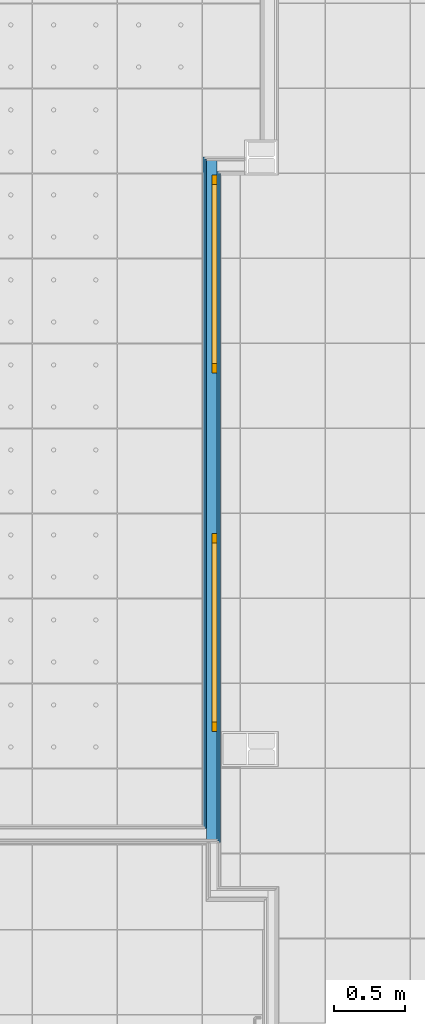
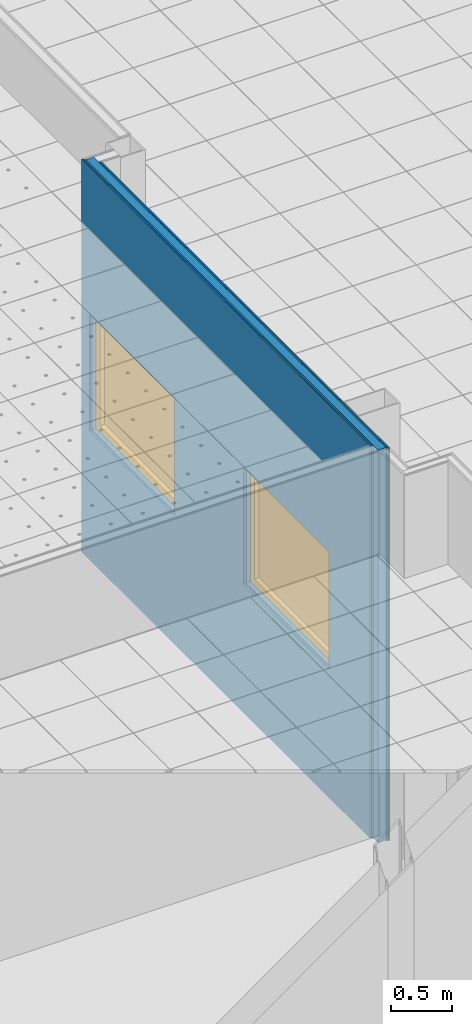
# One storey, part 45 of 321: 5 building element parts, 2 windows, 2 openings, 1 element without a shape of its own.
"""IFC2X3 building model written with IfcOpenShell, lengths in millimetres."""

from ifc_helpers import new_model, entity, si_unit, converted_unit, derived_unit, money_unit, direction, frame, origin_with_axes, place, context, subcontext, project, spatial, open_shell, faceted_brep, surface_model, source, transform, mapped, material, type_object, type_shapes, element, fill, aggregate, save


model = new_model("IFC2X3")

# Units and contexts
model_context = context("Model", 3, precision=0.01, world=origin_with_axes(), true_north=direction((0.0, 1.0)))
plan_context = context("Plan", 3, precision=0.01, world=origin_with_axes(), true_north=direction((0.0, 1.0)))
body_context = subcontext(model_context, "Body", "Model", "MODEL_VIEW")
ifc_project = project(units=[si_unit("LENGTHUNIT", "METRE", prefix="MILLI"), si_unit("AREAUNIT", "SQUARE_METRE"), si_unit("VOLUMEUNIT", "CUBIC_METRE"), converted_unit("PLANEANGLEUNIT", "DEGREE", entity("IfcPlaneAngleMeasure", 0.0174532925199), si_unit("PLANEANGLEUNIT", "RADIAN"), dimensions=[0, 0, 0, 0, 0, 0, 0]), money_unit("EUR"), converted_unit("TIMEUNIT", "Year", entity("IfcTimeMeasure", 31556926.0), si_unit("TIMEUNIT", "SECOND"), dimensions=[0, 0, 1, 0, 0, 0, 0]), si_unit("MASSUNIT", "GRAM", prefix="KILO"), si_unit("THERMODYNAMICTEMPERATUREUNIT", "DEGREE_CELSIUS"), si_unit("LUMINOUSINTENSITYUNIT", "LUMEN"), si_unit("ENERGYUNIT", "JOULE", prefix="MEGA"), derived_unit("THERMALCONDUCTANCEUNIT", [(si_unit("POWERUNIT", "WATT"), 1), (si_unit("LENGTHUNIT", "METRE"), -1), (si_unit("THERMODYNAMICTEMPERATUREUNIT", "KELVIN"), -1)]), derived_unit("SPECIFICHEATCAPACITYUNIT", [(si_unit("ENERGYUNIT", "JOULE"), 1), (si_unit("MASSUNIT", "GRAM", prefix="KILO"), -1), (si_unit("THERMODYNAMICTEMPERATUREUNIT", "KELVIN"), -1)]), derived_unit("MASSDENSITYUNIT", [(si_unit("MASSUNIT", "GRAM", prefix="KILO"), 1), (si_unit("VOLUMEUNIT", "CUBIC_METRE"), -1)])], contexts=[model_context, plan_context])

# Site, building, storey
site_placement = place(None, origin_with_axes())
site = spatial("IfcSite", under=ifc_project, at=site_placement, Name="Fortuinstraat Woensdrecht", CompositionType="ELEMENT")
building_placement = place(site_placement, origin_with_axes())
building = spatial("IfcBuilding", under=site, at=building_placement, Name="IKC Fortuna", CompositionType="ELEMENT")
storey_placement = place(building_placement, frame((0.0, 0.0, 4000.0), z_axis=(0.0, 0.0, 1.0), x_axis=(1.0, 0.0, 0.0)))
storey = spatial("IfcBuildingStorey", under=building, at=storey_placement, Name="01 eerste verdieping", CompositionType="ELEMENT", Elevation=4000.0)

# Window
window_style = type_object("IfcWindowStyle", Name="R1 25", ConstructionType="NOTDEFINED", OperationType="SINGLE_PANEL", ParameterTakesPrecedence=False, Sizeable=False)
shared_shape = source(origin_with_axes(), body_context, "Body", "SurfaceModel", [
    faceted_brep([(-633.0, -62.0, 1100.0), (-633.0, 0.0, 1100.0), (-700.0, 0.0, 1100.0), (-700.0, -62.0, 1100.0), (-633.0, -62.0, 67.0), (-633.0, 0.0, 67.0), (-700.0, 0.0, 67.0), (-700.0, -62.0, 67.0)], [[[0, 1, 2, 3]], [[4, 5, 1, 0]], [[1, 5, 6, 2]], [[3, 2, 6, 7]], [[0, 3, 7, 4]], [[7, 6, 5, 4]]]),
    faceted_brep([(633.0, -62.0, 67.0), (633.0, 0.0, 67.0), (700.0, 0.0, 67.0), (700.0, -62.0, 67.0), (633.0, -62.0, 1100.0), (633.0, 0.0, 1100.0), (700.0, 0.0, 1100.0), (700.0, -62.0, 1100.0)], [[[0, 1, 2, 3]], [[4, 5, 1, 0]], [[1, 5, 6, 2]], [[3, 2, 6, 7]], [[0, 3, 7, 4]], [[7, 6, 5, 4]]]),
    faceted_brep([(-633.0, -62.0, 67.0), (-633.0, 0.0, 67.0), (-700.0, 0.0, 67.0), (-700.0, -62.0, 67.0), (633.0, -62.0, 67.0), (633.0, 0.0, 67.0), (700.0, 0.0, 67.0), (700.0, 0.0, 0.0), (-700.0, 0.0, 0.0), (-700.0, -62.0, 0.0), (700.0, -62.0, 0.0), (700.0, -62.0, 67.0)], [[[0, 1, 2, 3]], [[4, 5, 1, 0]], [[1, 5, 6, 7, 8, 2]], [[3, 2, 8, 9]], [[0, 3, 9, 10, 11, 4]], [[11, 6, 5, 4]], [[10, 7, 6, 11]], [[9, 8, 7, 10]]]),
    faceted_brep([(633.0, -62.0, 1100.0), (633.0, 0.0, 1100.0), (700.0, 0.0, 1100.0), (700.0, -62.0, 1100.0), (-633.0, -62.0, 1100.0), (-633.0, 0.0, 1100.0), (-700.0, 0.0, 1100.0), (-700.0, 0.0, 1167.0), (700.0, 0.0, 1167.0), (700.0, -62.0, 1167.0), (-700.0, -62.0, 1167.0), (-700.0, -62.0, 1100.0)], [[[0, 1, 2, 3]], [[4, 5, 1, 0]], [[1, 5, 6, 7, 8, 2]], [[3, 2, 8, 9]], [[0, 3, 9, 10, 11, 4]], [[11, 6, 5, 4]], [[10, 7, 6, 11]], [[9, 8, 7, 10]]]),
    surface_model("IfcShellBasedSurfaceModel", [(-633.0, -64.0, 67.0), (633.0, -64.0, 67.0), (633.0, -64.0, 1100.0), (-633.0, -64.0, 1100.0)], [open_shell([[[0, 1, 2, 3]]])]),
    surface_model("IfcShellBasedSurfaceModel", [(-633.0, -44.0, 67.0), (-633.0, -44.0, 1100.0), (633.0, -44.0, 1100.0), (633.0, -44.0, 67.0)], [open_shell([[[0, 1, 2, 3]]])]),
])
type_shapes(window_style, [shared_shape])
wall_placement = place(storey_placement, frame((20219.9349765, 19322.2790326, -90.0), z_axis=(0.0, 0.0, 1.0), x_axis=(0.0, 1.0, 0.0)))
opening_1_placement = place(wall_placement, frame((1422.51759568, 0.0, 1290.0), z_axis=(0.0, 0.0, 1.0), x_axis=(1.0, 0.0, 0.0)))
window_1_placement = place(opening_1_placement, frame((-700.0, 0.0, 0.0), z_axis=(0.0, 0.0, 1.0), x_axis=(1.0, 0.0, 0.0)))
window_1 = element("IfcWindow", 1, at=window_1_placement, inside=storey, type_object=window_style, Name="32_Raam_h.05", ObjectType="WINDOW", OverallHeight=1167.0, OverallWidth=1400.0, context=body_context, shape_type="MappedRepresentation", body=[
    mapped(shared_shape, transform((700.0, -0.499999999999, 0.0))),
])

opening_2_placement = place(wall_placement, frame((3952.51759568, 0.0, 1290.0), z_axis=(0.0, 0.0, 1.0), x_axis=(1.0, 0.0, 0.0)))
window_2_placement = place(opening_2_placement, frame((-700.0, 0.0, 0.0), z_axis=(0.0, 0.0, 1.0), x_axis=(1.0, 0.0, 0.0)))
window_2 = element("IfcWindow", 2, at=window_2_placement, inside=storey, type_object=window_style, Name="32_Raam_h.05", ObjectType="WINDOW", OverallHeight=1167.0, OverallWidth=1400.0, context=body_context, shape_type="MappedRepresentation", body=[
    mapped(shared_shape, transform((700.0, -0.499999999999, 0.0))),
])

# Wall, opening
wall_type = type_object("IfcWallType", Name="MS125 2.75.2A 125", PredefinedType="NOTDEFINED")
wall = element("IfcWall", 3, at=wall_placement, inside=storey, type_object=wall_type, Name="22_Wand_Binnenwand")
opening_1 = element("IfcOpeningElement", 4, at=opening_1_placement, cuts=wall, Name="32_Raam_h.05", context=body_context, shape_type="Brep", body=[
    faceted_brep([(700.0, 125.0, 0.0), (700.0, 125.0, 1167.0), (700.0, -250.0, 1167.0), (700.0, -250.0, 0.0), (-700.0, 125.0, 0.0), (-700.0, 125.0, 1167.0), (-700.0, -250.0, 1167.0), (-700.0, -250.0, 0.0)], [[[0, 1, 2, 3]], [[0, 4, 5, 1]], [[1, 5, 6, 2]], [[3, 2, 6, 7]], [[4, 0, 3, 7]], [[5, 4, 7, 6]]]),
])

fill(opening_1, window_1)

# Opening
opening_2 = element("IfcOpeningElement", 5, at=opening_2_placement, cuts=wall, Name="32_Raam_h.05", context=body_context, shape_type="Brep", body=[
    faceted_brep([(700.0, 125.0, 0.0), (700.0, 125.0, 1167.0), (700.0, -250.0, 1167.0), (700.0, -250.0, 0.0), (-700.0, 125.0, 0.0), (-700.0, 125.0, 1167.0), (-700.0, -250.0, 1167.0), (-700.0, -250.0, 0.0)], [[[0, 1, 2, 3]], [[0, 4, 5, 1]], [[1, 5, 6, 2]], [[3, 2, 6, 7]], [[4, 0, 3, 7]], [[5, 4, 7, 6]]]),
])

fill(opening_2, window_2)

# Building element part
ifc_material_1 = material(Name="Gipsplaat")
building_element_part_1_placement = place(wall_placement, origin_with_axes())
building_element_part_1 = element("IfcBuildingElementPart", 6, at=building_element_part_1_placement, material=ifc_material_1, Name="Gipsplaat", context=body_context, shape_type="Brep", body=[
    faceted_brep([(50.0, 62.5, 3930.0), (4777.51759568, 62.5, 3930.0), (4777.51759568, 62.5, 0.0), (50.0, 62.5, 0.0), (2122.51759568, 62.5, 1290.0), (2122.51759568, 62.5, 2457.0), (722.517595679, 62.5, 2457.0), (722.517595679, 62.5, 1290.0), (3252.51759568, 62.5, 1290.0), (4652.51759568, 62.5, 1290.0), (4652.51759568, 62.5, 2457.0), (3252.51759568, 62.5, 2457.0), (50.0, 50.0, 3930.0), (4777.51759568, 50.0, 3930.0), (4777.51759568, 50.0, 0.0), (50.0, 50.0, 0.0), (2122.51759568, 50.0, 2457.0), (2122.51759568, 50.0, 1290.0), (722.517595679, 50.0, 2457.0), (722.517595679, 50.0, 1290.0), (3252.51759568, 50.0, 1290.0), (4652.51759568, 50.0, 1290.0), (4652.51759568, 50.0, 2457.0), (3252.51759568, 50.0, 2457.0)], [[[0, 1, 2, 3], [4, 5, 6, 7], [8, 9, 10, 11]], [[12, 13, 1, 0]], [[2, 1, 13, 14]], [[3, 2, 14, 15]], [[3, 15, 12, 0]], [[16, 5, 4, 17]], [[18, 6, 5, 16]], [[19, 7, 6, 18]], [[17, 4, 7, 19]], [[20, 21, 9, 8]], [[21, 22, 10, 9]], [[22, 23, 11, 10]], [[23, 20, 8, 11]], [[15, 14, 13, 12], [18, 16, 17, 19], [20, 23, 22, 21]]]),
])

building_element_part_2_placement = place(wall_placement, origin_with_axes())
building_element_part_2 = element("IfcBuildingElementPart", 7, at=building_element_part_2_placement, material=ifc_material_1, Name="Gipsplaat", context=body_context, shape_type="Brep", body=[
    faceted_brep([(37.5, 50.0, 3930.0), (4765.01759568, 50.0, 3930.0), (4765.01759568, 50.0, 0.0), (37.5, 50.0, 0.0), (2122.51759568, 50.0, 1290.0), (2122.51759568, 50.0, 2457.0), (722.517595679, 50.0, 2457.0), (722.517595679, 50.0, 1290.0), (3252.51759568, 50.0, 1290.0), (4652.51759568, 50.0, 1290.0), (4652.51759568, 50.0, 2457.0), (3252.51759568, 50.0, 2457.0), (37.5, 37.5, 3930.0), (4765.01759568, 37.5, 3930.0), (4765.01759568, 37.5, 0.0), (37.5, 37.5, 0.0), (2122.51759568, 37.5, 2457.0), (2122.51759568, 37.5, 1290.0), (722.517595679, 37.5, 2457.0), (722.517595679, 37.5, 1290.0), (3252.51759568, 37.5, 1290.0), (4652.51759568, 37.5, 1290.0), (4652.51759568, 37.5, 2457.0), (3252.51759568, 37.5, 2457.0)], [[[0, 1, 2, 3], [4, 5, 6, 7], [8, 9, 10, 11]], [[12, 13, 1, 0]], [[2, 1, 13, 14]], [[3, 2, 14, 15]], [[3, 15, 12, 0]], [[16, 5, 4, 17]], [[18, 6, 5, 16]], [[19, 7, 6, 18]], [[17, 4, 7, 19]], [[20, 21, 9, 8]], [[21, 22, 10, 9]], [[22, 23, 11, 10]], [[23, 20, 8, 11]], [[15, 14, 13, 12], [18, 16, 17, 19], [20, 23, 22, 21]]]),
])

ifc_material_2 = material(Name="Isolatie - Steenwol LSW")
building_element_part_3_placement = place(wall_placement, origin_with_axes())
building_element_part_3 = element("IfcBuildingElementPart", 8, at=building_element_part_3_placement, material=ifc_material_2, Name="Isolatie - Steenwol LSW", context=body_context, shape_type="Brep", body=[
    faceted_brep([(-37.5, 37.5, 3930.0), (4752.51759568, 37.5, 3930.0), (4752.51759568, 37.5, 0.0), (-37.5, 37.5, 0.0), (2122.51759568, 37.5, 1290.0), (2122.51759568, 37.5, 2457.0), (722.517595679, 37.5, 2457.0), (722.517595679, 37.5, 1290.0), (3252.51759568, 37.5, 1290.0), (4652.51759568, 37.5, 1290.0), (4652.51759568, 37.5, 2457.0), (3252.51759568, 37.5, 2457.0), (-37.5, -37.5, 3930.0), (4752.51759568, -37.5, 3930.0), (4752.51759568, -37.5, 0.0), (-37.5, -37.5, 0.0), (2122.51759568, -37.5, 2457.0), (2122.51759568, -37.5, 1290.0), (722.517595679, -37.5, 2457.0), (722.517595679, -37.5, 1290.0), (3252.51759568, -37.5, 1290.0), (4652.51759568, -37.5, 1290.0), (4652.51759568, -37.5, 2457.0), (3252.51759568, -37.5, 2457.0)], [[[0, 1, 2, 3], [4, 5, 6, 7], [8, 9, 10, 11]], [[12, 13, 1, 0]], [[2, 1, 13, 14]], [[3, 2, 14, 15]], [[3, 15, 12, 0]], [[16, 5, 4, 17]], [[18, 6, 5, 16]], [[19, 7, 6, 18]], [[17, 4, 7, 19]], [[20, 21, 9, 8]], [[21, 22, 10, 9]], [[22, 23, 11, 10]], [[23, 20, 8, 11]], [[15, 14, 13, 12], [18, 16, 17, 19], [20, 23, 22, 21]]]),
])

building_element_part_4_placement = place(wall_placement, origin_with_axes())
building_element_part_4 = element("IfcBuildingElementPart", 9, at=building_element_part_4_placement, material=ifc_material_1, Name="Gipsplaat", context=body_context, shape_type="Brep", body=[
    faceted_brep([(-50.0, -37.5, 3930.0), (4677.51759568, -37.5, 3930.0), (4677.51759568, -37.5, 0.0), (-50.0, -37.5, 0.0), (2122.51759568, -37.5, 1290.0), (2122.51759568, -37.5, 2457.0), (722.517595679, -37.5, 2457.0), (722.517595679, -37.5, 1290.0), (3252.51759568, -37.5, 1290.0), (4652.51759568, -37.5, 1290.0), (4652.51759568, -37.5, 2457.0), (3252.51759568, -37.5, 2457.0), (-50.0, -50.0, 3930.0), (4677.51759568, -50.0, 3930.0), (4677.51759568, -50.0, 0.0), (-50.0, -50.0, 0.0), (2122.51759568, -50.0, 2457.0), (2122.51759568, -50.0, 1290.0), (722.517595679, -50.0, 2457.0), (722.517595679, -50.0, 1290.0), (3252.51759568, -50.0, 1290.0), (4652.51759568, -50.0, 1290.0), (4652.51759568, -50.0, 2457.0), (3252.51759568, -50.0, 2457.0)], [[[0, 1, 2, 3], [4, 5, 6, 7], [8, 9, 10, 11]], [[12, 13, 1, 0]], [[2, 1, 13, 14]], [[3, 2, 14, 15]], [[3, 15, 12, 0]], [[16, 5, 4, 17]], [[18, 6, 5, 16]], [[19, 7, 6, 18]], [[17, 4, 7, 19]], [[20, 21, 9, 8]], [[21, 22, 10, 9]], [[22, 23, 11, 10]], [[23, 20, 8, 11]], [[15, 14, 13, 12], [18, 16, 17, 19], [20, 23, 22, 21]]]),
])

building_element_part_5_placement = place(wall_placement, origin_with_axes())
building_element_part_5 = element("IfcBuildingElementPart", 10, at=building_element_part_5_placement, material=ifc_material_1, Name="Gipsplaat", context=body_context, shape_type="Brep", body=[
    faceted_brep([(-62.5, -50.0, 3930.0), (4665.01759568, -50.0, 3930.0), (4665.01759568, -50.0, 0.0), (-62.5, -50.0, 0.0), (2122.51759568, -50.0, 1290.0), (2122.51759568, -50.0, 2457.0), (722.517595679, -50.0, 2457.0), (722.517595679, -50.0, 1290.0), (3252.51759568, -50.0, 1290.0), (4652.51759568, -50.0, 1290.0), (4652.51759568, -50.0, 2457.0), (3252.51759568, -50.0, 2457.0), (-62.5, -62.5, 3930.0), (4665.01759568, -62.5, 3930.0), (4665.01759568, -62.5, 0.0), (-62.5, -62.5, 0.0), (2122.51759568, -62.5, 2457.0), (2122.51759568, -62.5, 1290.0), (722.517595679, -62.5, 2457.0), (722.517595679, -62.5, 1290.0), (3252.51759568, -62.5, 1290.0), (4652.51759568, -62.5, 1290.0), (4652.51759568, -62.5, 2457.0), (3252.51759568, -62.5, 2457.0)], [[[0, 1, 2, 3], [4, 5, 6, 7], [8, 9, 10, 11]], [[12, 13, 1, 0]], [[2, 1, 13, 14]], [[3, 2, 14, 15]], [[3, 15, 12, 0]], [[16, 5, 4, 17]], [[18, 6, 5, 16]], [[19, 7, 6, 18]], [[17, 4, 7, 19]], [[20, 21, 9, 8]], [[21, 22, 10, 9]], [[22, 23, 11, 10]], [[23, 20, 8, 11]], [[15, 14, 13, 12], [18, 16, 17, 19], [20, 23, 22, 21]]]),
])

aggregate(wall, [building_element_part_1, building_element_part_2, building_element_part_3, building_element_part_4, building_element_part_5])

save(model, "model.ifc")
